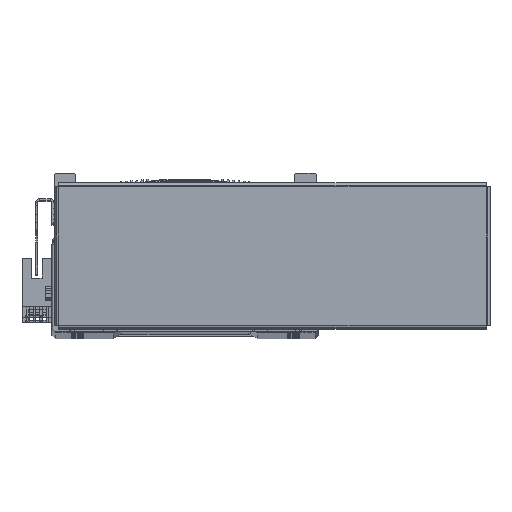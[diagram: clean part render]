
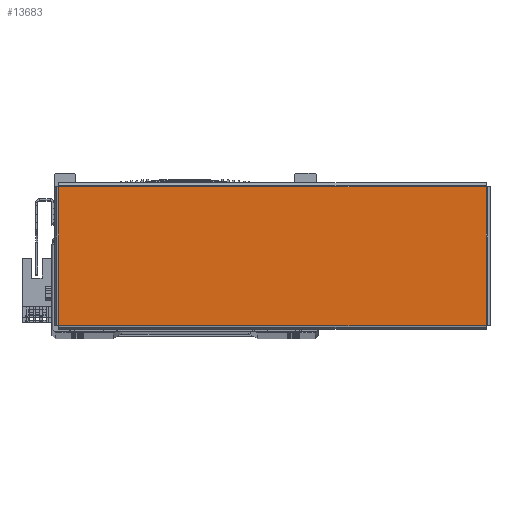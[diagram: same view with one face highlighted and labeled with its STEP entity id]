
A CAD part, top view. The second image highlights one B-rep face of the part: STEP entity #13683.
In plain terms, the highlighted planar face has unit normal (0, 0, 1) as drawn and (0, 0, -1) by its records, which use the part's own axes.
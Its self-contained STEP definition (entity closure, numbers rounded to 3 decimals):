
#12036 = ORIENTED_EDGE ( 'NONE', *, *, #51727, .T. ) ;
#12220 = ORIENTED_EDGE ( 'NONE', *, *, #51703, .T. ) ;
#12239 = ORIENTED_EDGE ( 'NONE', *, *, #51723, .T. ) ;
#12263 = ORIENTED_EDGE ( 'NONE', *, *, #51600, .T. ) ;
#13683 = ADVANCED_FACE ( 'NONE', ( #80495 ), #15516, .F. ) ;
#15504 = DIRECTION ( 'NONE',  ( 1., 0., 0. ) ) ;
#15516 = PLANE ( 'NONE',  #60151 ) ;
#15551 = CARTESIAN_POINT ( 'NONE',  ( 0., 0., -1. ) ) ;
#15600 = DIRECTION ( 'NONE',  ( 0., 0., 1. ) ) ;
#41309 = CARTESIAN_POINT ( 'NONE',  ( -97.863, -31.763, -1. ) ) ;
#41310 = CARTESIAN_POINT ( 'NONE',  ( 97.863, 31.763, -1. ) ) ;
#41381 = CARTESIAN_POINT ( 'NONE',  ( -97.863, 31.763, -1. ) ) ;
#41386 = CARTESIAN_POINT ( 'NONE',  ( 97.863, -31.763, -1. ) ) ;
#51600 = EDGE_CURVE ( 'NONE', #58460, #58568, #106511, .T. ) ;
#51703 = EDGE_CURVE ( 'NONE', #58568, #58457, #106743, .T. ) ;
#51723 = EDGE_CURVE ( 'NONE', #58575, #58460, #106746, .T. ) ;
#51727 = EDGE_CURVE ( 'NONE', #58457, #58575, #106719, .T. ) ;
#58457 = VERTEX_POINT ( 'NONE', #41309 ) ;
#58460 = VERTEX_POINT ( 'NONE', #41310 ) ;
#58568 = VERTEX_POINT ( 'NONE', #41386 ) ;
#58575 = VERTEX_POINT ( 'NONE', #41381 ) ;
#60151 = AXIS2_PLACEMENT_3D ( 'NONE', #15551, #15600, #15504 ) ;
#61636 = EDGE_LOOP ( 'NONE', ( #12263, #12220, #12036, #12239 ) ) ;
#80495 = FACE_OUTER_BOUND ( 'NONE', #61636, .T. ) ;
#93477 = CARTESIAN_POINT ( 'NONE',  ( 97.863, 31.793, -1. ) ) ;
#93480 = DIRECTION ( 'NONE',  ( 0., -1., 0. ) ) ;
#95262 = DIRECTION ( 'NONE',  ( -1., 0., 0. ) ) ;
#95310 = CARTESIAN_POINT ( 'NONE',  ( 97.893, -31.763, -1. ) ) ;
#95391 = DIRECTION ( 'NONE',  ( 1., 0., 0. ) ) ;
#95419 = CARTESIAN_POINT ( 'NONE',  ( -97.863, -31.793, -1. ) ) ;
#95425 = CARTESIAN_POINT ( 'NONE',  ( -97.893, 31.763, -1. ) ) ;
#95511 = DIRECTION ( 'NONE',  ( 0., 1., 0. ) ) ;
#106511 = LINE ( 'NONE', #93477, #106556 ) ;
#106556 = VECTOR ( 'NONE', #93480, 1000. ) ;
#106717 = VECTOR ( 'NONE', #95262, 1000. ) ;
#106719 = LINE ( 'NONE', #95419, #106729 ) ;
#106729 = VECTOR ( 'NONE', #95511, 1000. ) ;
#106743 = LINE ( 'NONE', #95310, #106717 ) ;
#106746 = LINE ( 'NONE', #95425, #106768 ) ;
#106768 = VECTOR ( 'NONE', #95391, 1000. ) ;
